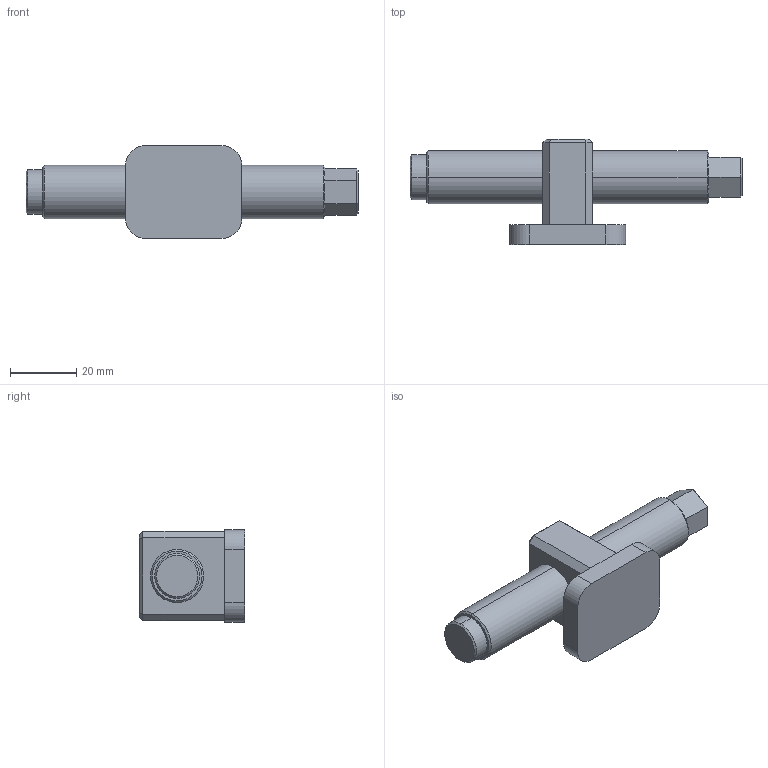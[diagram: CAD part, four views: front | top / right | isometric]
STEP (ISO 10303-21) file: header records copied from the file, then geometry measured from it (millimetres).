
FILE_DESCRIPTION (( 'STEP AP214' ), '1' );
FILE_NAME ('4877100.STEP', '2025-03-20T12:01:28', ( '' ), ( '' ), 'SwSTEP 2.0', 'SolidWorks 2021', '' );
FILE_SCHEMA (( 'AUTOMOTIVE_DESIGN' ));
Length unit declared in the file: millimetre
Products named in the file (1): 4877100
Bounding box: 100 x 31.65 x 28 mm (x, y, z)
Volume: 31634.8 mm3; surface area: 8838.4 mm2
Topology: 1 solids, 1 shells, 68 faces, 154 edges, 94 vertices
Faces by surface type: plane 52, cylinder 10, cone 6
Entity records: 2341 total; most frequent: DIRECTION 318, CARTESIAN_POINT 317, ORIENTED_EDGE 308, EDGE_CURVE 154, VECTOR 128, LINE 128, AXIS2_PLACEMENT_3D 95, VERTEX_POINT 94
